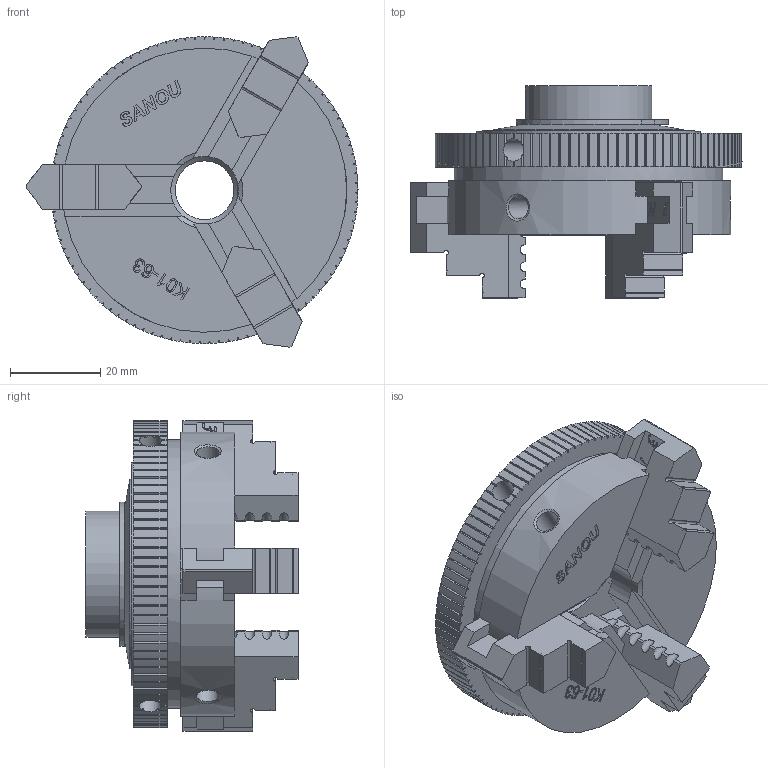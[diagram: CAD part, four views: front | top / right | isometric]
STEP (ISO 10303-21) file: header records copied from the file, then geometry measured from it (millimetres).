
FILE_DESCRIPTION(/* description */ (''),/* implementation_level */ '2;1');
FILE_NAME(/* name */ '',/* time_stamp */ '2025-02-18T16:46:33+03:00',/* author */ ('User'),/* organization */ (''),/* preprocessor_version */ 'ST-DEVELOPER v19.2',/* originating_system */ 'Autodesk Inventor 2024',/* authorisation */ '');
FILE_SCHEMA (('AUTOMOTIVE_DESIGN { 1 0 10303 214 3 1 1 }'));
Length unit declared in the file: millimetre
Products named in the file (3): Сборка2; Патрон; Кулачок
Assembly tree (4 placements, depth 2):
  Сборка2
    Патрон
    Кулачок  x3
Bounding box: 73.59 x 47 x 68.81 mm (x, y, z)
Volume: 77935.1 mm3; surface area: 30722.4 mm2
Topology: 6 solids, 6 shells, 1221 faces, 3476 edges, 2312 vertices
Faces by surface type: cylinder 477, plane 413, bspline 324, cone 7
Full cylindrical faces by diameter (mm): 2 x2, 5 x4, 13 x2, 15 x2, 28 x2, 42 x1, 49.5 x1, 59.5 x1
Entity records: 29923 total; most frequent: CARTESIAN_POINT 7458, ORIENTED_EDGE 4840, DIRECTION 4324, EDGE_CURVE 2420, VERTEX_POINT 1608, AXIS2_PLACEMENT_3D 1597, LINE 1130, VECTOR 1130
